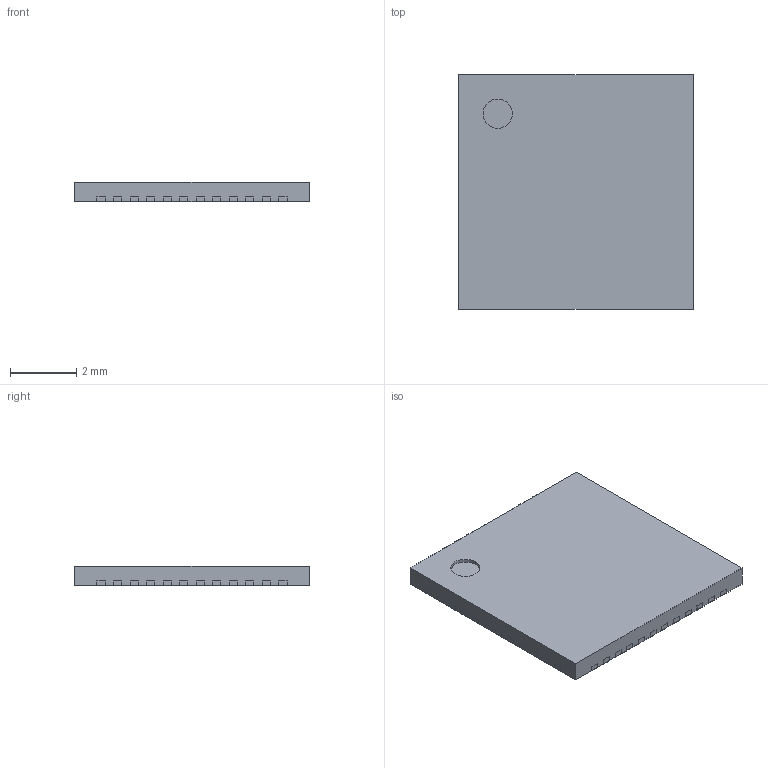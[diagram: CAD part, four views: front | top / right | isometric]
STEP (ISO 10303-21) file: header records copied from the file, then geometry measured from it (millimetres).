
FILE_DESCRIPTION(('Open CASCADE Model'),'2;1');
FILE_NAME('Open CASCADE Shape Model','2023-12-12T16:02:42',('Author'),( 'Open CASCADE'),'Open CASCADE STEP processor 7.5','Open CASCADE 7.5' ,'Unknown');
FILE_SCHEMA(('AUTOMOTIVE_DESIGN { 1 0 10303 214 1 1 1 1 }'));
Length unit declared in the file: millimetre
Products named in the file (7): QFN50P700X700X60_HS-49N.step; Open CASCADE STEP translator 7.5 34.1; Body; Open CASCADE STEP translator 7.5 34.2.1; Thermal Shape; Pin Shape; Open CASCADE STEP translator 7.5 34.4.1
Assembly tree (53 placements, depth 3):
  QFN50P700X700X60_HS-49N.step
    Open CASCADE STEP translator 7.5 34.1
    Body
      Open CASCADE STEP translator 7.5 34.2.1
    Thermal Shape
    Pin Shape  x48
      Open CASCADE STEP translator 7.5 34.4.1
Bounding box: 7.1 x 7.1 x 0.6 mm (x, y, z)
Volume: 30.2 mm3; surface area: 194.7 mm2
Topology: 50 solids, 51 shells, 688 faces, 1375 edges, 789 vertices
Faces by surface type: plane 687, cylinder 1
Full cylindrical faces by diameter (mm): 0.887 x1
Entity records: 2041 total; most frequent: DIRECTION 345, CARTESIAN_POINT 299, LINE 168, VECTOR 168, ORIENTED_EDGE 117, PCURVE 117, DEFINITIONAL_REPRESENTATION 117, AXIS2_PLACEMENT_3D 87
